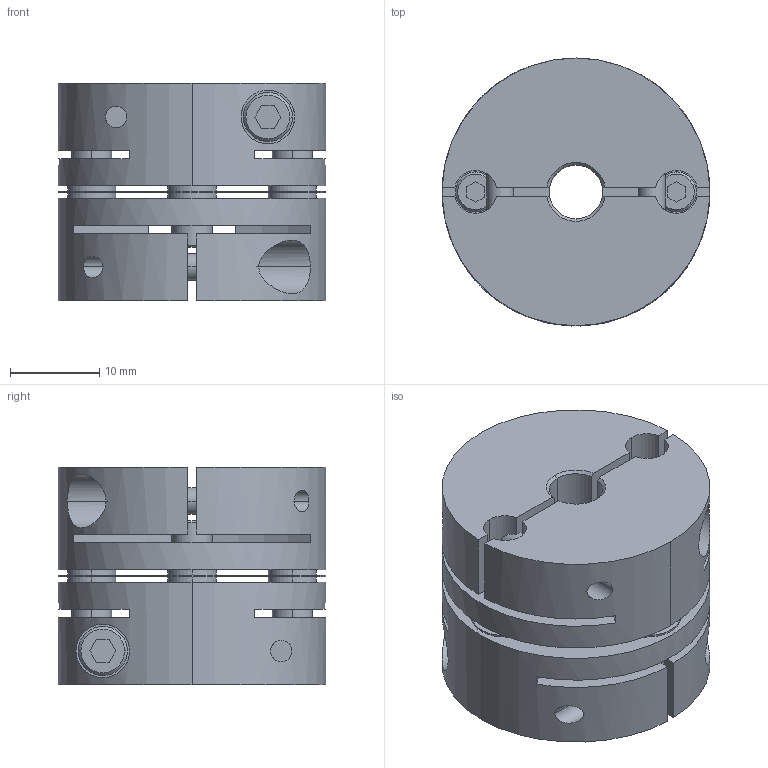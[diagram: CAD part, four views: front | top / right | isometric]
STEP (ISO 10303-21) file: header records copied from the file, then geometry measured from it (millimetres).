
FILE_DESCRIPTION((''),'2;1');
FILE_NAME('LAS-30C-6×11.stp','2011-08-10T13:09:49',(''),(''),'AutoCAD STEP 2000i','AutoCAD 2000i',', , ');
FILE_SCHEMA(('CONFIG_CONTROL_DESIGN'));
Length unit declared in the file: millimetre
Products named in the file (6): LAS-30C-6×10; 忣兜1; LA-3002-D10; LA-3002-D06-1; LA-3002-D06; LAS30-ITA
Assembly tree (5 placements, depth 2):
  LAS-30C-6×10
    忣兜1
    LA-3002-D10
    LA-3002-D06-1
    LA-3002-D06
    LAS30-ITA
Bounding box: 30 x 30 x 24.4 mm (x, y, z)
Volume: 13082.7 mm3; surface area: 9164.5 mm2
Topology: 1 solids, 1 shells, 240 faces, 636 edges, 416 vertices
Faces by surface type: plane 112, cylinder 100, cone 28
Entity records: 8333 total; most frequent: CARTESIAN_POINT 2034, DIRECTION 1316, ORIENTED_EDGE 1272, EDGE_CURVE 636, AXIS2_PLACEMENT_3D 482, VERTEX_POINT 416, VECTOR 352, LINE 352
